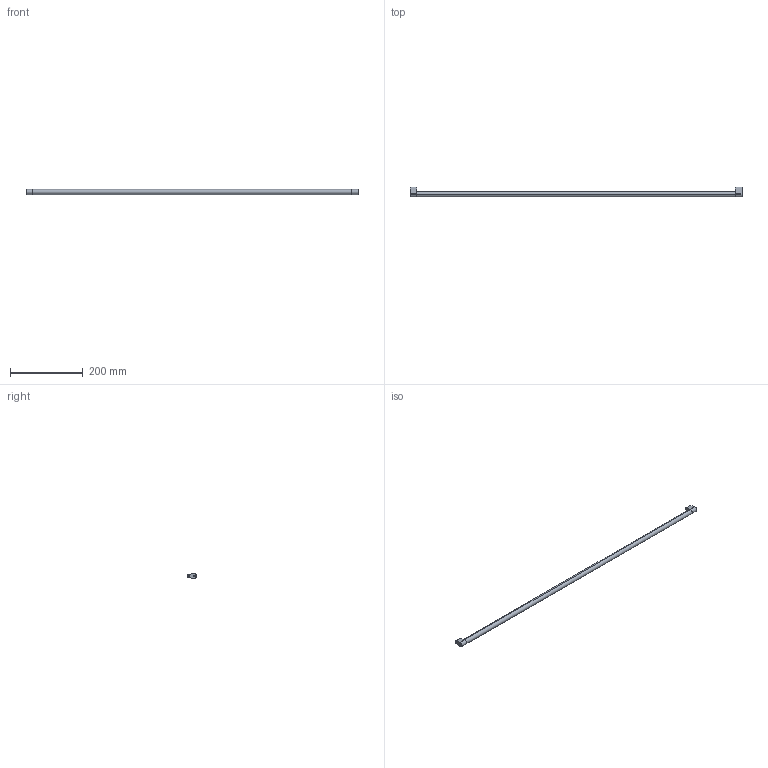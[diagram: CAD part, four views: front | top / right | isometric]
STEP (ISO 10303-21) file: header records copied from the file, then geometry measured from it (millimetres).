
FILE_DESCRIPTION (( 'STEP AP214' ), '1' );
FILE_NAME ('_Synchronisationseinheit Nova Pro KAB1000_S16.step', '2010-07-08T13:58:35', ( 'grass' ), ( '' ), 'SwSTEP 2.0', 'SolidWorks 2010', '' );
FILE_SCHEMA (( 'AUTOMOTIVE_DESIGN' ));
Length unit declared in the file: millimetre
Products named in the file (1): _Synchronisationseinheit Nova Pro KAB1000_S16
Bounding box: 915 x 26.5 x 14 mm (x, y, z)
Volume: 144540.1 mm3; surface area: 43090.8 mm2
Topology: 3 solids, 3 shells, 36 faces, 78 edges, 52 vertices
Faces by surface type: cylinder 18, plane 18
Entity records: 1050 total; most frequent: DIRECTION 188, CARTESIAN_POINT 167, ORIENTED_EDGE 156, EDGE_CURVE 78, AXIS2_PLACEMENT_3D 73, VERTEX_POINT 52, LINE 42, VECTOR 42
